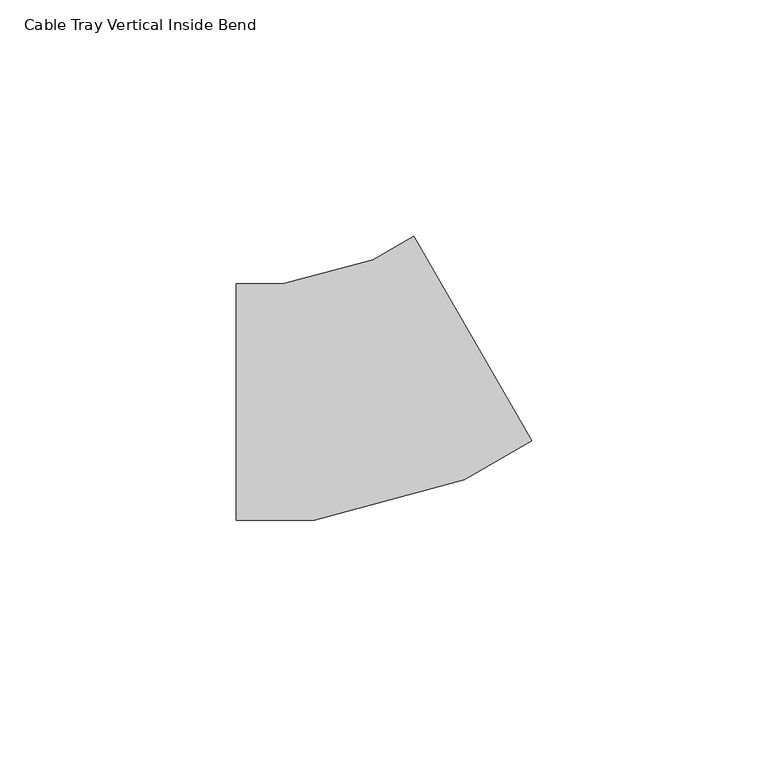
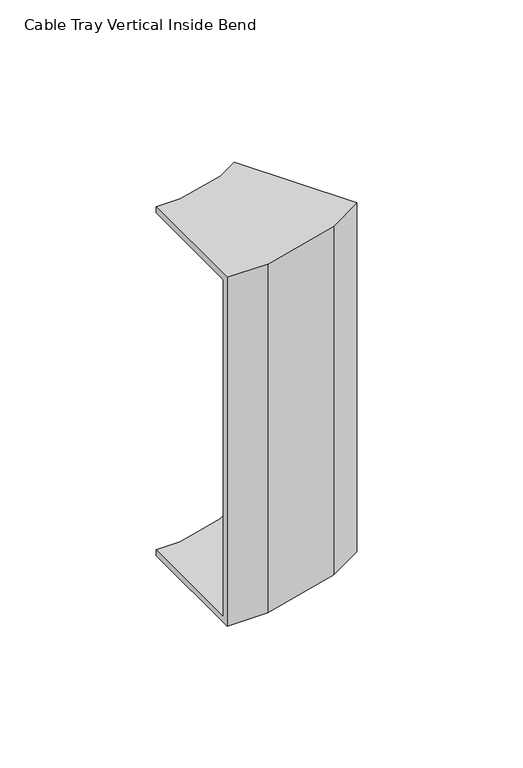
"""IFC4 building model written with IfcOpenShell, lengths in millimetres: cable carrier fitting geometry, Cable Tray Vertical Inside Bend : ELEC_ELV_CT_N2402."""

from ifc_helpers import new_model, si_unit, origin, place, context, project, spatial, faceted_brep, source, transform, mapped, element, save


def cable_tray_vertical_inside_bend_e76ff088(model_context):
    return source(origin(), model_context, "Body", "Brep", [
        faceted_brep([(-26.7949182, 25.0, 75.0), (-26.7949182, 25.0, 72.46), (-26.7949182, -22.46, 72.46), (-26.7949182, -22.46, -72.46), (-26.7949182, 25.0, -72.46), (-26.7949182, 25.0, -75.0), (-26.7949182, -25.0, -75.0), (-26.7949182, -25.0, 75.0), (10.7050805, 35.048094, 75.0), (35.7050797, -8.2531766, 75.0), (35.7050797, -8.2531766, -75.0), (10.7050805, 35.048094, -75.0), (10.7050805, 35.048094, -72.46), (34.4350798, -6.0534721, -72.46), (34.4350798, -6.0534721, 72.46), (10.7050805, 35.048094, 72.46), (-16.9209813, 25.0, 75.0), (-16.9209813, 25.0, 72.46), (2.1540002, 30.1111257, 72.46), (20.4728758, -14.114554, 72.46), (-10.672754, -22.46, 72.46), (-10.672754, -22.46, -72.46), (20.4728758, -14.114554, -72.46), (2.1540002, 30.1111257, -72.46), (-16.9209813, 25.0, -72.46), (-16.9209813, 25.0, -75.0), (2.1540002, 30.1111257, -75.0), (21.4532792, -16.4814572, -75.0), (-10.3383566, -25.0, -75.0), (-10.3383566, -25.0, 75.0), (21.4532792, -16.4814572, 75.0), (2.1540002, 30.1111257, 75.0)], [[[0, 1, 2, 3, 4, 5, 6, 7]], [[8, 9, 10, 11, 12, 13, 14, 15]], [[1, 0, 16, 17]], [[2, 1, 17, 18, 15, 14, 19, 20]], [[3, 2, 20, 21]], [[4, 3, 21, 22, 13, 12, 23, 24]], [[5, 4, 24, 25]], [[6, 5, 25, 26, 11, 10, 27, 28]], [[7, 6, 28, 29]], [[0, 7, 29, 30, 9, 8, 31, 16]], [[17, 16, 31, 18]], [[21, 20, 19, 22]], [[25, 24, 23, 26]], [[29, 28, 27, 30]], [[18, 31, 8, 15]], [[22, 19, 14, 13]], [[26, 23, 12, 11]], [[30, 27, 10, 9]]]),
    ])


if __name__ == "__main__":
    model = new_model("IFC4")
    model_context = context("Model", 3, world=origin())
    ifc_project = project(units=[si_unit("LENGTHUNIT", "METRE", prefix="MILLI")], contexts=[model_context])
    site = spatial("IfcSite", under=ifc_project)
    building = spatial("IfcBuilding", under=site)
    placement = place(None, origin())
    cable_tray_vertical_inside_bend_shape = cable_tray_vertical_inside_bend_e76ff088(model_context)
    element("IfcCableCarrierFitting", 1, ObjectType="Cable Tray Vertical Inside Bend : ELEC_ELV_CT_N2402", at=placement, inside=building, context=model_context, shape_type="MappedRepresentation", body=[
        mapped(cable_tray_vertical_inside_bend_shape, transform((0.0, 0.0, 0.0), x_axis=(1.0, 0.0, 0.0), y_axis=(0.0, 1.0, 0.0), z_axis=(0.0, 0.0, 1.0))),
    ])
    save(model, "model.ifc")
